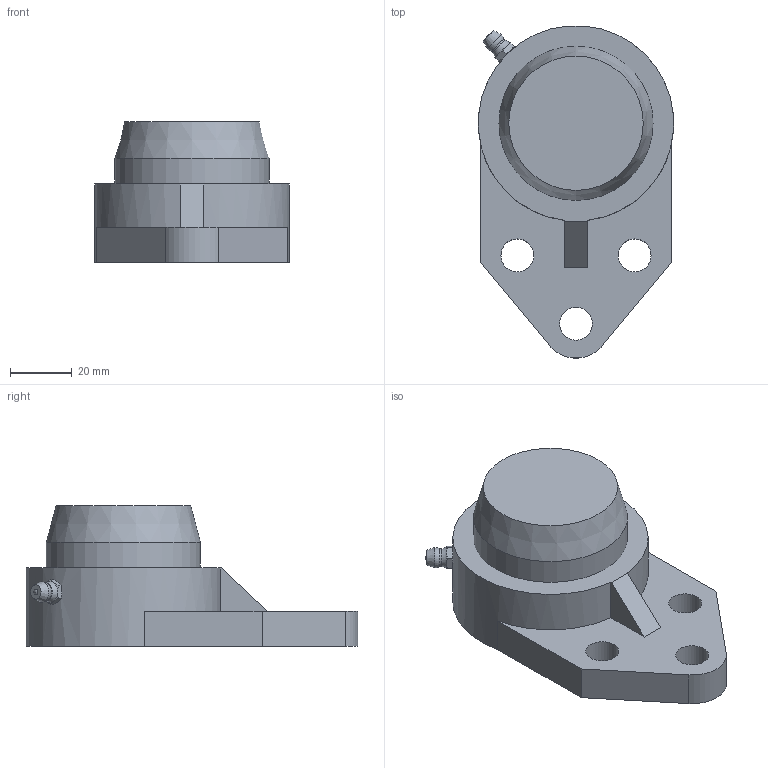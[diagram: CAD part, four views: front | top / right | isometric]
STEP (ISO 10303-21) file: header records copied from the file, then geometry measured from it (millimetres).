
FILE_DESCRIPTION(/* description */ (''),/* implementation_level */ '2;1');
FILE_NAME(/* name */ 'C:\Users\UGijyutu_200702\Desktop\77.プラスチックハウジング\MBFBL200V\MBFBL200VE\MBFBL204VE.stp',/* time_stamp */ '2023-05-08T16:20:25+09:00',/* author */ ('UGijyutu_200702'),/* organization */ (''),/* preprocessor_version */ 'ST-DEVELOPER v18',/* originating_system */ 'Autodesk Inventor 2020',/* authorisation */ '');
FILE_SCHEMA (('AUTOMOTIVE_DESIGN { 1 0 10303 214 3 1 1 }'));
Length unit declared in the file: millimetre
Products named in the file (5): MBFBL204VE; FBL204; MB4 V; 1/4-28UNF-2A; 204E
Assembly tree (4 placements, depth 2):
  MBFBL204VE
    FBL204
    MB4 V
    1/4-28UNF-2A
    204E
Bounding box: 63.43 x 107.85 x 45.8 mm (x, y, z)
Volume: 90344.4 mm3; surface area: 35937.7 mm2
Topology: 4 solids, 4 shells, 91 faces, 222 edges, 152 vertices
Faces by surface type: plane 47, cylinder 21, cone 17, sphere 4, torus 2
Full cylindrical faces by diameter (mm): 3.2 x1, 4.978 x1, 5 x2, 6.35 x1, 10.7 x3, 20 x1, 29 x1, 46.5 x1, 49.8 x2, 50.1 x1, 52 x1
Entity records: 3161 total; most frequent: CARTESIAN_POINT 728, DIRECTION 480, ORIENTED_EDGE 442, EDGE_CURVE 221, AXIS2_PLACEMENT_3D 197, VERTEX_POINT 152, EDGE_LOOP 117, CIRCLE 97
